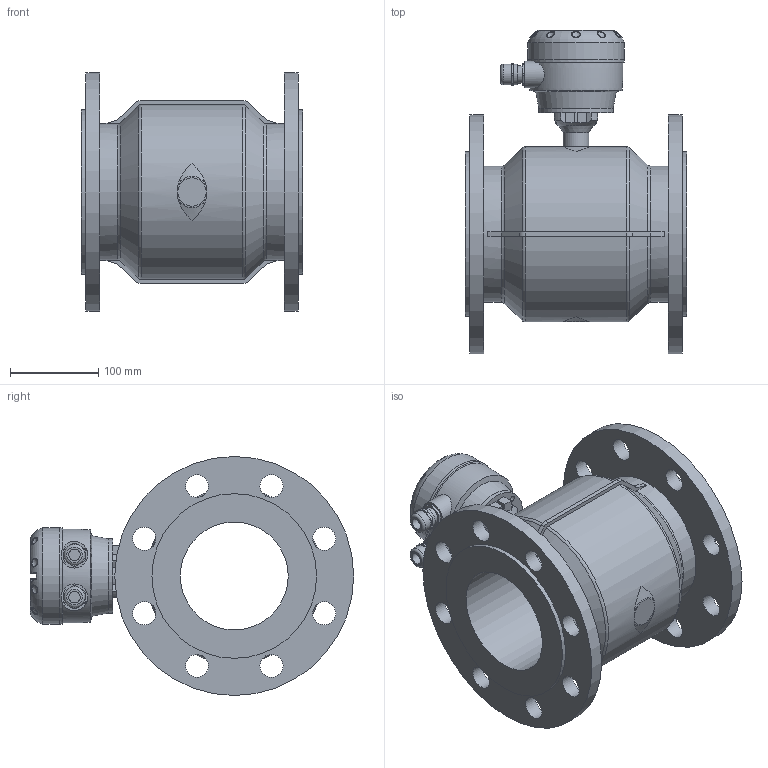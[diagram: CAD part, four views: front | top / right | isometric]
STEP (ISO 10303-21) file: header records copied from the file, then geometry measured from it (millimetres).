
FILE_DESCRIPTION (( 'STEP AP203' ), '1' );
FILE_NAME ('KROHNE_OPTIFLUX_2-4000W_DIN2634_DN125_PN25.STEP', '2011-07-04T14:25:11', ( '' ), ( '' ), 'SwSTEP 2.0', 'SolidWorks 2010', '' );
FILE_SCHEMA (( 'CONFIG_CONTROL_DESIGN' ));
Length unit declared in the file: millimetre
Products named in the file (1): KROHNE_OPTIFLUX_2-4000W_DIN2634_DN125_PN25
Bounding box: 250 x 365.49 x 270 mm (x, y, z)
Volume: 5418508.3 mm3; surface area: 536897.8 mm2
Topology: 14 solids, 14 shells, 391 faces, 976 edges, 634 vertices
Faces by surface type: plane 179, cylinder 102, bspline 53, torus 30, cone 14, sphere 13
Full cylindrical faces by diameter (mm): 4 x4, 6.6 x8, 13 x2, 20 x2, 23.5 x4, 26 x16, 29 x1, 30 x2, 84 x2, 109 x1, 122 x1, 153.8 x2, 186 x2, 270 x2
Entity records: 15828 total; most frequent: CARTESIAN_POINT 7089, ORIENTED_EDGE 1746, DIRECTION 1657, EDGE_CURVE 873, AXIS2_PLACEMENT_3D 615, VERTEX_POINT 607, EDGE_LOOP 548, FACE_OUTER_BOUND 457
